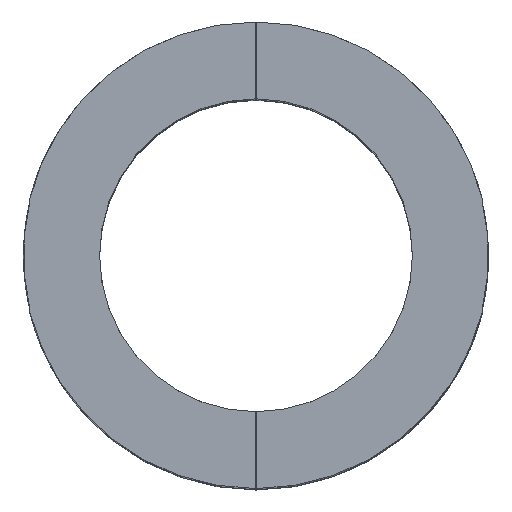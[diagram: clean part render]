
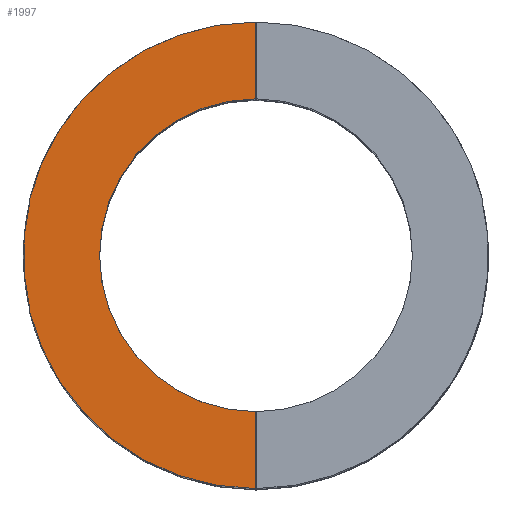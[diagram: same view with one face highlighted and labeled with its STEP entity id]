
A CAD part, top view. The second image highlights one B-rep face of the part: STEP entity #1997.
In plain terms, the highlighted planar face has unit normal (0, 0, 1).
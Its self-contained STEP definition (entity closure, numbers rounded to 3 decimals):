
#39=CIRCLE($,#2150,85.);
#40=CIRCLE($,#2154,57.);
#41=CIRCLE($,#2155,85.);
#42=CIRCLE($,#2156,84.75);
#128=FACE_OUTER_BOUND($,#243,.T.);
#243=EDGE_LOOP($,(#1314,#1315,#1316,#1317,#1318,#1319,#1320,#1321));
#465=LINE($,#3063,#613);
#471=LINE($,#3079,#619);
#475=LINE($,#3111,#623);
#476=LINE($,#3114,#624);
#613=VECTOR($,#2432,28.);
#619=VECTOR($,#2444,28.);
#623=VECTOR($,#2466,0.257);
#624=VECTOR($,#2469,0.257);
#764=VERTEX_POINT($,#3059);
#766=VERTEX_POINT($,#3062);
#770=VERTEX_POINT($,#3071);
#773=VERTEX_POINT($,#3077);
#776=VERTEX_POINT($,#3092);
#779=VERTEX_POINT($,#3108);
#780=VERTEX_POINT($,#3110);
#781=VERTEX_POINT($,#3112);
#969=EDGE_CURVE($,#766,#764,#465,.T.);
#977=EDGE_CURVE($,#770,#773,#471,.T.);
#981=EDGE_CURVE($,#770,#776,#39,.T.);
#986=EDGE_CURVE($,#773,#766,#40,.T.);
#987=EDGE_CURVE($,#779,#764,#41,.T.);
#988=EDGE_CURVE($,#779,#780,#475,.T.);
#989=EDGE_CURVE($,#780,#781,#42,.T.);
#990=EDGE_CURVE($,#781,#776,#476,.T.);
#1314=ORIENTED_EDGE($,*,*,#977,.T.);
#1315=ORIENTED_EDGE($,*,*,#986,.T.);
#1316=ORIENTED_EDGE($,*,*,#969,.T.);
#1317=ORIENTED_EDGE($,*,*,#987,.F.);
#1318=ORIENTED_EDGE($,*,*,#988,.T.);
#1319=ORIENTED_EDGE($,*,*,#989,.T.);
#1320=ORIENTED_EDGE($,*,*,#990,.T.);
#1321=ORIENTED_EDGE($,*,*,#981,.F.);
#1806=PLANE($,#2153);
#1997=ADVANCED_FACE($,(#128),#1806,.F.);
#2150=AXIS2_PLACEMENT_3D($,#3093,#2452,#2453);
#2153=AXIS2_PLACEMENT_3D($,#3106,#2460,#2461);
#2154=AXIS2_PLACEMENT_3D($,#3107,#2462,#2463);
#2155=AXIS2_PLACEMENT_3D($,#3109,#2464,#2465);
#2156=AXIS2_PLACEMENT_3D($,#3113,#2467,#2468);
#2432=DIRECTION($,(0.,1.,0.));
#2444=DIRECTION($,(0.,1.,0.));
#2452=DIRECTION('center_axis',(0.,0.,-1.));
#2453=DIRECTION('ref_axis',(-1.,0.,0.));
#2460=DIRECTION('center_axis',(0.,0.,-1.));
#2461=DIRECTION('ref_axis',(-1.,0.,0.));
#2462=DIRECTION('center_axis',(0.,0.,-1.));
#2463=DIRECTION('ref_axis',(-1.,0.,0.));
#2464=DIRECTION('center_axis',(0.,0.,-1.));
#2465=DIRECTION('ref_axis',(-1.,0.,0.));
#2466=DIRECTION($,(1.,0.,0.));
#2467=DIRECTION('center_axis',(0.,0.,1.));
#2468=DIRECTION('ref_axis',(0.972,-0.236,0.));
#2469=DIRECTION($,(-1.,0.,0.));
#3059=CARTESIAN_POINT('',(-0.25,85.,150.));
#3062=CARTESIAN_POINT('',(-0.25,56.999,150.));
#3063=CARTESIAN_POINT($,(-0.25,0.,150.));
#3071=CARTESIAN_POINT('',(-0.25,-85.,150.));
#3077=CARTESIAN_POINT('',(-0.25,-56.999,150.));
#3079=CARTESIAN_POINT($,(-0.25,0.,150.));
#3092=CARTESIAN_POINT('',(-82.614,-20.,150.));
#3093=CARTESIAN_POINT('Origin',(0.,0.,150.));
#3106=CARTESIAN_POINT('Origin',(0.,0.,150.));
#3107=CARTESIAN_POINT('Origin',(0.,0.,150.));
#3108=CARTESIAN_POINT('',(-82.614,20.,150.));
#3109=CARTESIAN_POINT('Origin',(0.,0.,150.));
#3110=CARTESIAN_POINT('',(-82.356,20.,150.));
#3111=CARTESIAN_POINT($,(-41.821,20.,150.));
#3112=CARTESIAN_POINT('',(-82.356,-20.,150.));
#3113=CARTESIAN_POINT('Origin',(0.,0.,150.));
#3114=CARTESIAN_POINT($,(-41.178,-20.,150.));
